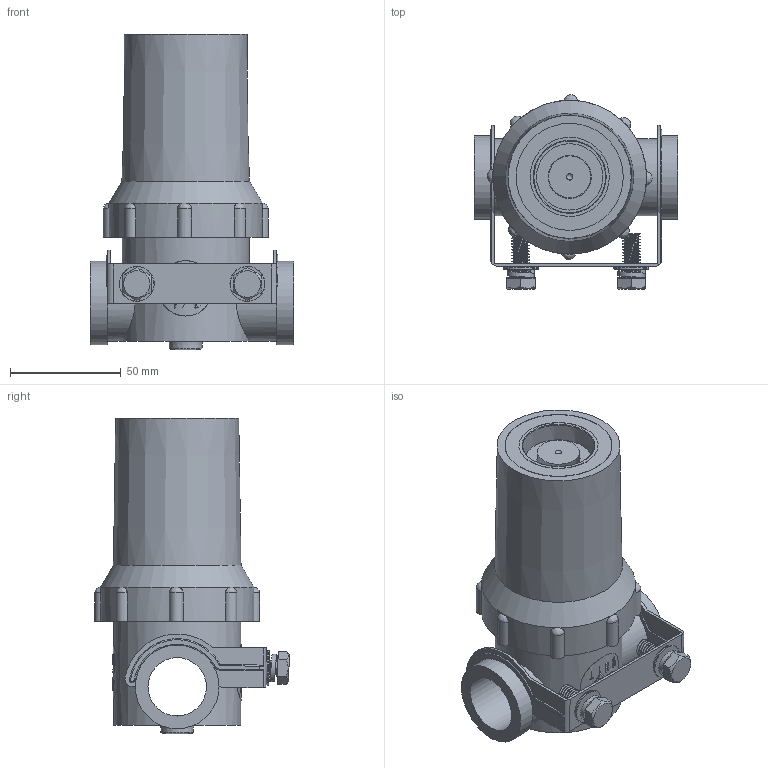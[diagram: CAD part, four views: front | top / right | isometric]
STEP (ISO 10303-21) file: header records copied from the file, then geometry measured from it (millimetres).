
FILE_DESCRIPTION(/* description */ ('FILTRO x VUOTO'),/* implementation_level */ '2;1');
FILE_NAME(/* name */ 'C:\PNX_VAULTFOLDER\Area Tecnica\Disegni\VARIE-3D\Componenti\1900 (vuoto)\19F34_V_00.stp',/* time_stamp */ '2019-09-13T15:00:54+02:00',/* author */ ('maniean1'),/* organization */ (''),/* preprocessor_version */ 'ST-DEVELOPER v17',/* originating_system */ 'Autodesk Inventor 2019',/* authorisation */ '');
FILE_SCHEMA (('AUTOMOTIVE_DESIGN { 1 0 10303 214 3 1 1 }'));
Length unit declared in the file: millimetre
Products named in the file (1): 19F34.V.00
Bounding box: 92.1 x 87.76 x 142.69 mm (x, y, z)
Surface area: 55541.2 mm2 (no closed solid volume)
Topology: 0 solids, 8 shells, 370 faces, 1190 edges, 800 vertices
Faces by surface type: cylinder 121, bspline 114, plane 94, torus 31, cone 9, sphere 1
Full cylindrical faces by diameter (mm): 8 x28, 8.5 x2, 11.4 x2, 15.8 x2, 26.4 x2, 34.7 x2, 35.8 x1, 37.8 x2, 48.4 x1, 57.5 x1, 59 x1, 69.5 x1
Entity records: 35524 total; most frequent: CARTESIAN_POINT 25998, ORIENTED_EDGE 2072, DIRECTION 1706, EDGE_CURVE 1188, VERTEX_POINT 799, AXIS2_PLACEMENT_3D 651, EDGE_LOOP 406, LINE 404
